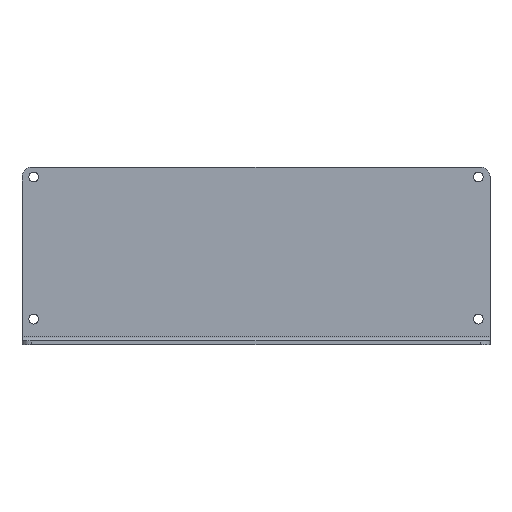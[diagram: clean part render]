
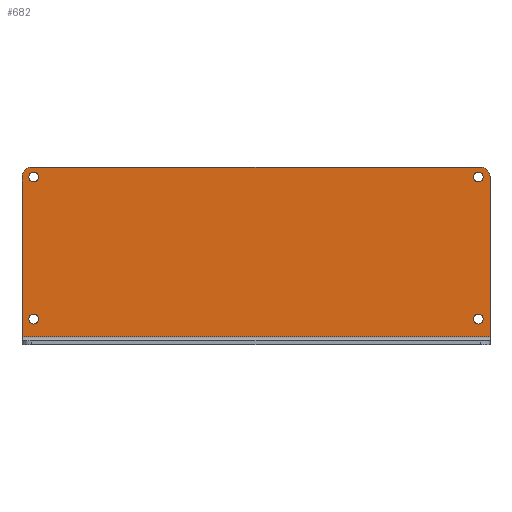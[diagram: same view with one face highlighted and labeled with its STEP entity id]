
A CAD part, top view. The second image highlights one B-rep face of the part: STEP entity #682.
In plain terms, the highlighted planar face has unit normal (0, 0, 1).
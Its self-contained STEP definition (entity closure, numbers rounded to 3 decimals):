
#23=FACE_BOUND('',#157,.T.);
#24=FACE_BOUND('',#158,.T.);
#25=FACE_BOUND('',#159,.T.);
#26=FACE_BOUND('',#160,.T.);
#43=CIRCLE('',#736,4.);
#52=CIRCLE('',#748,4.);
#59=CIRCLE('',#764,2.);
#60=CIRCLE('',#766,2.);
#61=CIRCLE('',#768,2.);
#62=CIRCLE('',#770,2.);
#114=FACE_OUTER_BOUND('',#156,.T.);
#156=EDGE_LOOP('',(#623,#624,#625,#626,#627,#628));
#157=EDGE_LOOP('',(#629));
#158=EDGE_LOOP('',(#630));
#159=EDGE_LOOP('',(#631));
#160=EDGE_LOOP('',(#632));
#199=LINE('',#1094,#259);
#205=LINE('',#1119,#265);
#215=LINE('',#1150,#275);
#220=LINE('',#1168,#280);
#259=VECTOR('',#889,10.);
#265=VECTOR('',#913,10.);
#275=VECTOR('',#949,10.);
#280=VECTOR('',#972,10.);
#313=VERTEX_POINT('',#1073);
#314=VERTEX_POINT('',#1074);
#322=VERTEX_POINT('',#1092);
#330=VERTEX_POINT('',#1112);
#331=VERTEX_POINT('',#1113);
#332=VERTEX_POINT('',#1118);
#341=VERTEX_POINT('',#1152);
#342=VERTEX_POINT('',#1156);
#343=VERTEX_POINT('',#1160);
#344=VERTEX_POINT('',#1164);
#393=EDGE_CURVE('',#313,#314,#43,.T.);
#403=EDGE_CURVE('',#322,#313,#199,.T.);
#412=EDGE_CURVE('',#330,#331,#52,.T.);
#415=EDGE_CURVE('',#331,#332,#205,.T.);
#431=EDGE_CURVE('',#322,#332,#215,.T.);
#433=EDGE_CURVE('',#341,#341,#59,.T.);
#435=EDGE_CURVE('',#342,#342,#60,.T.);
#437=EDGE_CURVE('',#343,#343,#61,.T.);
#439=EDGE_CURVE('',#344,#344,#62,.T.);
#440=EDGE_CURVE('',#314,#330,#220,.T.);
#623=ORIENTED_EDGE('',*,*,#393,.F.);
#624=ORIENTED_EDGE('',*,*,#403,.F.);
#625=ORIENTED_EDGE('',*,*,#431,.T.);
#626=ORIENTED_EDGE('',*,*,#415,.F.);
#627=ORIENTED_EDGE('',*,*,#412,.F.);
#628=ORIENTED_EDGE('',*,*,#440,.F.);
#629=ORIENTED_EDGE('',*,*,#433,.T.);
#630=ORIENTED_EDGE('',*,*,#435,.T.);
#631=ORIENTED_EDGE('',*,*,#437,.T.);
#632=ORIENTED_EDGE('',*,*,#439,.T.);
#648=PLANE('',#772);
#682=ADVANCED_FACE('',(#114,#23,#24,#25,#26),#648,.T.);
#736=AXIS2_PLACEMENT_3D('',#1075,#873,#874);
#748=AXIS2_PLACEMENT_3D('',#1114,#907,#908);
#764=AXIS2_PLACEMENT_3D('',#1154,#953,#954);
#766=AXIS2_PLACEMENT_3D('',#1158,#958,#959);
#768=AXIS2_PLACEMENT_3D('',#1162,#963,#964);
#770=AXIS2_PLACEMENT_3D('',#1166,#968,#969);
#772=AXIS2_PLACEMENT_3D('',#1169,#973,#974);
#873=DIRECTION('center_axis',(0.,0.,-1.));
#874=DIRECTION('ref_axis',(-0.707,0.707,0.));
#889=DIRECTION('',(0.,1.,0.));
#907=DIRECTION('center_axis',(0.,0.,-1.));
#908=DIRECTION('ref_axis',(0.707,0.707,0.));
#913=DIRECTION('',(0.,-1.,0.));
#949=DIRECTION('',(1.,0.,0.));
#953=DIRECTION('center_axis',(0.,0.,-1.));
#954=DIRECTION('ref_axis',(-1.,0.,0.));
#958=DIRECTION('center_axis',(0.,0.,-1.));
#959=DIRECTION('ref_axis',(-1.,0.,0.));
#963=DIRECTION('center_axis',(0.,0.,-1.));
#964=DIRECTION('ref_axis',(-1.,0.,0.));
#968=DIRECTION('center_axis',(0.,0.,-1.));
#969=DIRECTION('ref_axis',(-1.,0.,0.));
#972=DIRECTION('',(1.,0.,0.));
#973=DIRECTION('center_axis',(0.,0.,1.));
#974=DIRECTION('ref_axis',(1.,0.,0.));
#1073=CARTESIAN_POINT('',(-95.5,32.25,1.626));
#1074=CARTESIAN_POINT('',(-91.5,36.25,1.626));
#1075=CARTESIAN_POINT('Origin',(-91.5,32.25,1.626));
#1092=CARTESIAN_POINT('',(-95.5,-32.999,1.626));
#1094=CARTESIAN_POINT('',(-95.5,-36.25,1.626));
#1112=CARTESIAN_POINT('',(91.5,36.25,1.626));
#1113=CARTESIAN_POINT('',(95.5,32.25,1.626));
#1114=CARTESIAN_POINT('Origin',(91.5,32.25,1.626));
#1118=CARTESIAN_POINT('',(95.5,-32.999,1.626));
#1119=CARTESIAN_POINT('',(95.5,36.25,1.626));
#1150=CARTESIAN_POINT('',(-47.75,-32.999,1.626));
#1152=CARTESIAN_POINT('',(92.75,-25.77,1.626));
#1154=CARTESIAN_POINT('Origin',(90.75,-25.77,1.626));
#1156=CARTESIAN_POINT('',(92.75,32.25,1.626));
#1158=CARTESIAN_POINT('Origin',(90.75,32.25,1.626));
#1160=CARTESIAN_POINT('',(-88.75,-25.77,1.626));
#1162=CARTESIAN_POINT('Origin',(-90.75,-25.77,1.626));
#1164=CARTESIAN_POINT('',(-88.75,32.25,1.626));
#1166=CARTESIAN_POINT('Origin',(-90.75,32.25,1.626));
#1168=CARTESIAN_POINT('',(-95.5,36.25,1.626));
#1169=CARTESIAN_POINT('Origin',(0.,0.,1.626));
